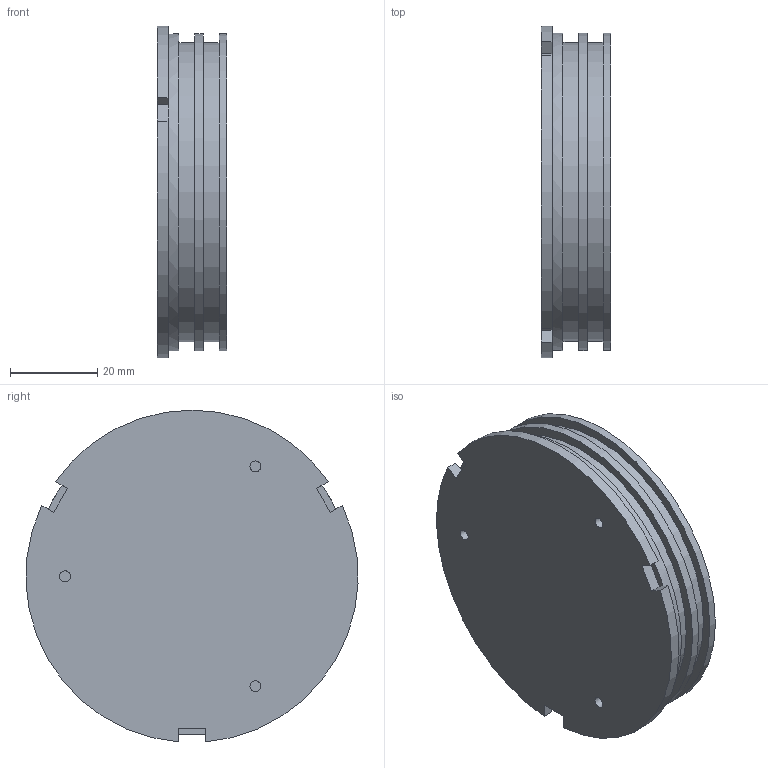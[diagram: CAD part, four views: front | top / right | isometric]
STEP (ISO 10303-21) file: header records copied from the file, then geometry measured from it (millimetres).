
FILE_DESCRIPTION(('Open CASCADE Model'),'2;1');
FILE_NAME('Open CASCADE Shape Model','2026-10-31T23:30:31',('Author'),( 'Open CASCADE'),'Open CASCADE STEP processor 7.9','Open CASCADE 7.9' ,'Unknown');
FILE_SCHEMA(('AUTOMOTIVE_DESIGN { 1 0 10303 214 1 1 1 1 }'));
Length unit declared in the file: millimetre
Products named in the file (1): Open CASCADE STEP translator 7.9 2
Bounding box: 16 x 76.13 x 76.07 mm (x, y, z)
Volume: 57300.7 mm3; surface area: 15994.4 mm2
Topology: 1 solids, 1 shells, 49 faces, 99 edges, 66 vertices
Faces by surface type: plane 31, cylinder 18
Full cylindrical faces by diameter (mm): 2.5 x3, 8.3 x4, 16 x1, 24 x1, 28 x1, 68.59 x2, 72.75 x3
Entity records: 2574 total; most frequent: CARTESIAN_POINT 539, DIRECTION 373, ORIENTED_EDGE 198, PCURVE 198, DEFINITIONAL_REPRESENTATION 198, LINE 159, VECTOR 159, EDGE_CURVE 99
